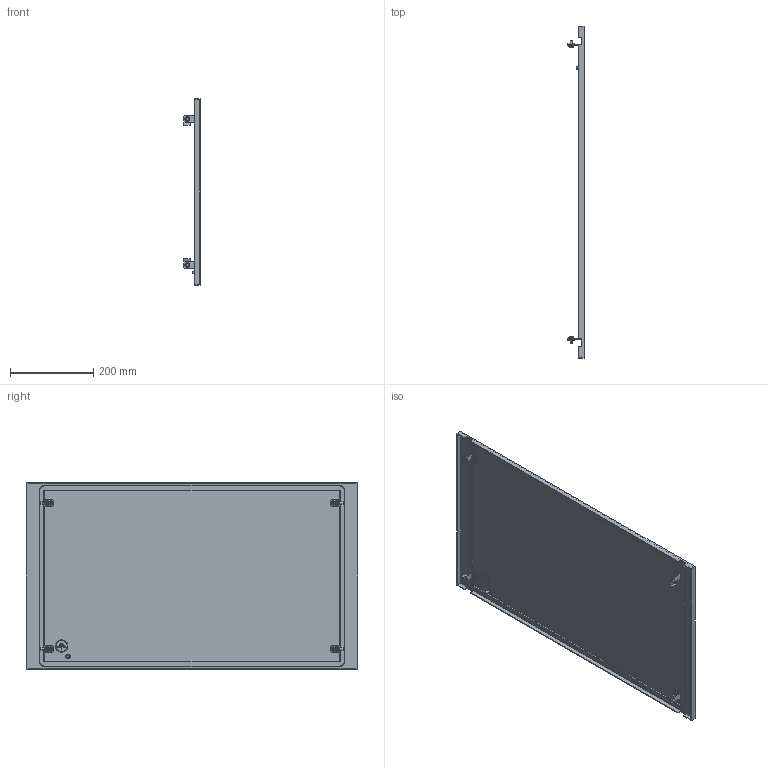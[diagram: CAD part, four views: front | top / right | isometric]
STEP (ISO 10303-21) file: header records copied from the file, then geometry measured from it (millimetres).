
FILE_DESCRIPTION (( 'STEP AP214' ), '1' );
FILE_NAME ('FO-00-PWSB-045-080 Ôàëüø-ïàíåëü âíåøíÿÿ ãëóõàÿ 450õ800 ìì.STEP', '2025-08-25T07:55:50', ( '' ), ( '' ), 'SwSTEP 2.0', 'SolidWorks 2023', '' );
FILE_SCHEMA (( 'AUTOMOTIVE_DESIGN' ));
Length unit declared in the file: millimetre
Products named in the file (1): FO-00-PWSB-045-080 Фальш-панель внешняя глухая 450х800 мм
Bounding box: 38.5 x 795 x 446 mm (x, y, z)
Volume: 851855.6 mm3; surface area: 790449.4 mm2
Topology: 1 solids, 10 shells, 846 faces, 2093 edges, 1287 vertices
Faces by surface type: plane 530, cylinder 202, cone 90, torus 24
Entity records: 25296 total; most frequent: CARTESIAN_POINT 4873, DIRECTION 4361, ORIENTED_EDGE 4182, EDGE_CURVE 2091, AXIS2_PLACEMENT_3D 1487, VECTOR 1387, LINE 1387, VERTEX_POINT 1287
